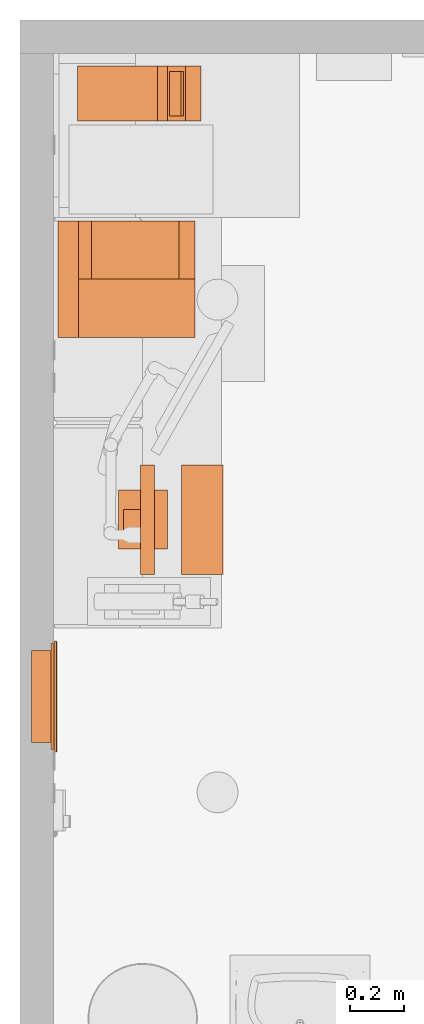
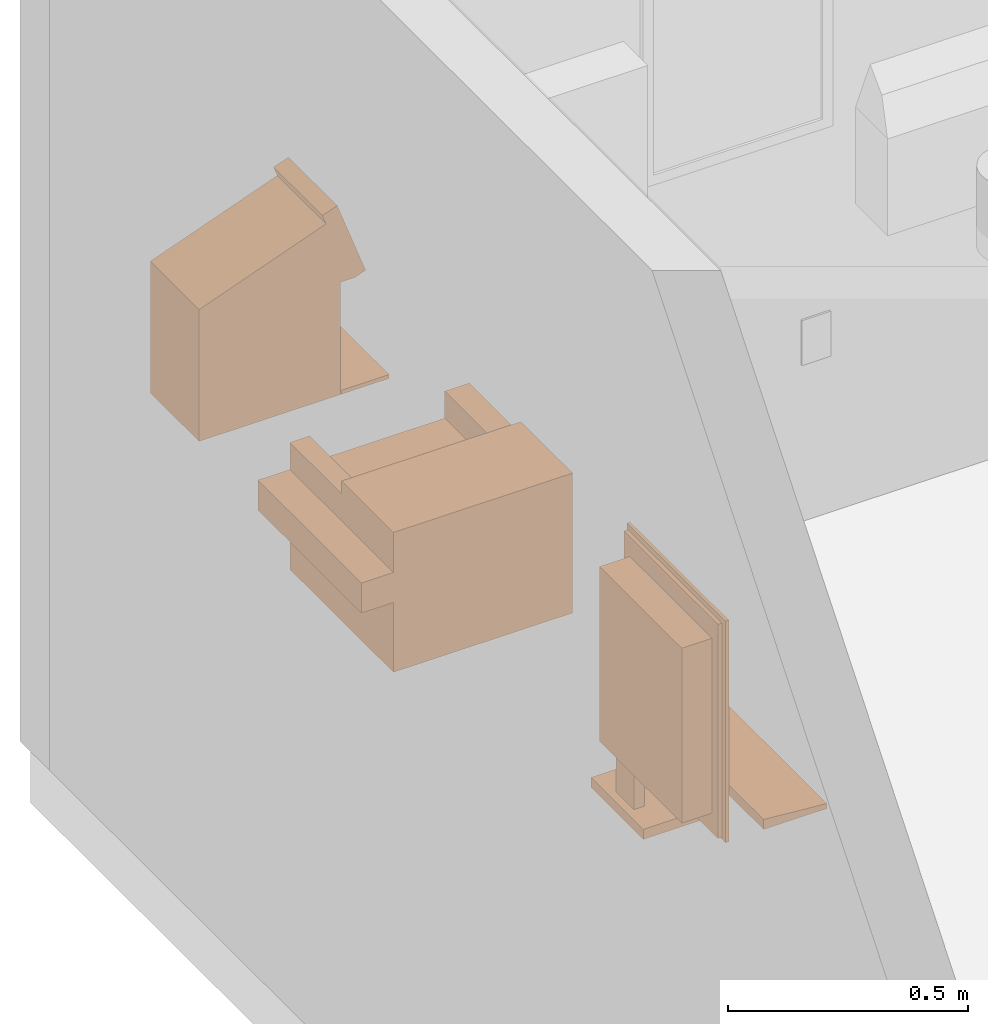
# One storey, part 10 of 11: 4 proxies.
"""IFC2X3 building model written with IfcOpenShell, lengths in feet."""

from ifc_helpers import new_model, entity, si_unit, converted_unit, derived_unit, direction, frame, origin, place, context, subcontext, project, spatial, faceted_brep, source, transform, mapped, type_object, type_shapes, element, save


model = new_model("IFC2X3")

# Units and contexts
model_context = context("Model", 3, precision=0.0001, world=origin(), true_north=direction((6.12303176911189e-17, 1.0)))
body_context = subcontext(model_context, "Body", "Model", "MODEL_VIEW")
ifc_project = project(units=[converted_unit("LENGTHUNIT", "FOOT", entity("IfcRatioMeasure", 0.3048), si_unit("LENGTHUNIT", "METRE"), dimensions=[1, 0, 0, 0, 0, 0, 0]), converted_unit("AREAUNIT", "SQUARE FOOT", entity("IfcRatioMeasure", 0.09290304), si_unit("AREAUNIT", "SQUARE_METRE"), dimensions=[2, 0, 0, 0, 0, 0, 0]), converted_unit("VOLUMEUNIT", "CUBIC FOOT", entity("IfcRatioMeasure", 0.028316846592), si_unit("VOLUMEUNIT", "CUBIC_METRE"), dimensions=[3, 0, 0, 0, 0, 0, 0]), converted_unit("PLANEANGLEUNIT", "DEGREE", entity("IfcRatioMeasure", 0.0174532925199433), si_unit("PLANEANGLEUNIT", "RADIAN"), dimensions=[0, 0, 0, 0, 0, 0, 0]), si_unit("MASSUNIT", "GRAM", prefix="KILO"), derived_unit("MASSDENSITYUNIT", [(si_unit("MASSUNIT", "GRAM", prefix="KILO"), 1), (si_unit("LENGTHUNIT", "METRE"), -3)]), si_unit("TIMEUNIT", "SECOND"), si_unit("FREQUENCYUNIT", "HERTZ"), si_unit("THERMODYNAMICTEMPERATUREUNIT", "DEGREE_CELSIUS"), derived_unit("THERMALTRANSMITTANCEUNIT", [(si_unit("MASSUNIT", "GRAM", prefix="KILO"), 1), (si_unit("THERMODYNAMICTEMPERATUREUNIT", "KELVIN"), -1), (si_unit("TIMEUNIT", "SECOND"), -3)]), derived_unit("VOLUMETRICFLOWRATEUNIT", [(si_unit("LENGTHUNIT", "METRE"), 3), (si_unit("TIMEUNIT", "SECOND"), -1)]), si_unit("ELECTRICCURRENTUNIT", "AMPERE"), si_unit("ELECTRICVOLTAGEUNIT", "VOLT"), si_unit("POWERUNIT", "WATT"), si_unit("FORCEUNIT", "NEWTON"), si_unit("ILLUMINANCEUNIT", "LUX"), si_unit("LUMINOUSFLUXUNIT", "LUMEN"), si_unit("LUMINOUSINTENSITYUNIT", "CANDELA"), derived_unit("USERDEFINED", [(si_unit("MASSUNIT", "GRAM", prefix="KILO"), -1), (si_unit("LENGTHUNIT", "METRE"), -2), (si_unit("TIMEUNIT", "SECOND"), 3), (si_unit("LUMINOUSFLUXUNIT", "LUMEN"), 1)]), derived_unit("LINEARVELOCITYUNIT", [(si_unit("LENGTHUNIT", "METRE"), 1), (si_unit("TIMEUNIT", "SECOND"), -1)]), si_unit("PRESSUREUNIT", "PASCAL"), derived_unit("USERDEFINED", [(si_unit("LENGTHUNIT", "METRE"), -2), (si_unit("MASSUNIT", "GRAM", prefix="KILO"), 1), (si_unit("TIMEUNIT", "SECOND"), -2)])], contexts=[model_context])

# Site, building, storey, space
site_placement = place(None, origin())
site = spatial("IfcSite", under=ifc_project, at=site_placement, Name="Default", CompositionType="ELEMENT")
building_placement = place(site_placement, origin())
building = spatial("IfcBuilding", under=site, at=building_placement, Name="EYE CLINIC:  OPTHALMOLOGY AND OPTOMETRY SERVICES (Ch. 233)", CompositionType="ELEMENT")
storey_placement = place(building_placement, origin())
storey = spatial("IfcBuildingStorey", under=building, at=storey_placement, Name="DATUM", CompositionType="ELEMENT", Elevation=0.0)
space_placement = place(storey_placement, origin())
space = spatial("IfcSpace", under=storey, at=space_placement, Name="(OPVF2)", CompositionType="ELEMENT", InteriorOrExteriorSpace="INTERNAL")

# Proxies
building_element_proxy_type_1 = type_object("IfcBuildingElementProxyType", Name="A5048 - Cabinet, Medication, Security, Wall Mounted", PredefinedType="NOTDEFINED")
shared_shape_1 = source(origin(), body_context, "Body", "Brep", [
    faceted_brep([(-0.664083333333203, -0.914083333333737, 0.0729166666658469), (-0.664083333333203, -0.914083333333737, 0.0663549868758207), (-0.664083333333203, 0.914083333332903, 0.0663549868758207), (-0.664083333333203, 0.914083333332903, 0.0729166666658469), (-0.674499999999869, -0.924500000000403, 0.0663549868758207), (-0.674499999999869, 0.924499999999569, 0.0663549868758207), (0.664083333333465, 0.914083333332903, 0.0663549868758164), (0.664083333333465, 0.914083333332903, 0.0729166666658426), (0.674500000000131, 0.924499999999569, 0.0663549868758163), (0.664083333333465, -0.914083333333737, 0.0663549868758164), (0.664083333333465, -0.914083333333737, 0.0729166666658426), (0.674500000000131, -0.924500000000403, 0.0663549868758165)], [[[0, 1, 2, 3]], [[4, 0, 3, 5]], [[3, 2, 6, 7]], [[5, 3, 7, 8]], [[7, 6, 9, 10]], [[8, 7, 10, 11]], [[10, 9, 1, 0]], [[11, 10, 0, 4]], [[5, 8, 11, 4], [1, 9, 6, 2]]]),
    faceted_brep([(0.664083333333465, 0.914083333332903, 0.0729166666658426), (-0.664083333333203, 0.914083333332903, 0.0729166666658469), (-0.664083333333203, -0.914083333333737, 0.0729166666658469), (0.664083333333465, -0.914083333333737, 0.0729166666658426), (0.664083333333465, 0.914083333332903, 0.0663549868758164), (0.664083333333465, -0.914083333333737, 0.0663549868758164), (-0.664083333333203, -0.914083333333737, 0.0663549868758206), (-0.664083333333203, 0.914083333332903, 0.0663549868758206)], [[[0, 1, 2, 3]], [[4, 5, 6, 7]], [[1, 0, 4, 7]], [[2, 1, 7, 6]], [[3, 2, 6, 5]], [[0, 3, 5, 4]]]),
    faceted_brep([(0.674500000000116, 0.924499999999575, 0.0663549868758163), (-0.674499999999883, 0.924499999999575, 0.0663549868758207), (-0.674499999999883, -0.924500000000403, 0.0663549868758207), (0.674500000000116, -0.924500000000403, 0.0663549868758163), (0.674500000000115, 0.924499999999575, 0.0416666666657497), (0.674500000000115, -0.924500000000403, 0.0416666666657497), (-0.674499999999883, -0.924500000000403, 0.0416666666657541), (-0.674499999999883, 0.924499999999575, 0.0416666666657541)], [[[0, 1, 2, 3]], [[4, 5, 6, 7]], [[1, 0, 4, 7]], [[2, 1, 7, 6]], [[3, 2, 6, 5]], [[0, 3, 5, 4]]]),
    faceted_brep([(0.643250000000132, 0.89324999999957, 0.0312499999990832), (0.538127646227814, 0.666666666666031, 0.0312499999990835), (0.548533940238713, 0.641543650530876, 0.0312499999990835), (0.521573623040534, 0.688240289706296, 0.0312499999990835), (0.552083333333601, 0.614583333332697, 0.0312499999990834), (0.552083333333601, -0.61458333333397, 0.0312499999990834), (0.500000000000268, 0.704794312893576, 0.0312499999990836), (0.474876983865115, 0.715200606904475, 0.0312499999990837), (0.447916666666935, 0.718749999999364, 0.0312499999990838), (-0.447916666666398, 0.718749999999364, 0.0312499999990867), (0.643250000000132, -0.893250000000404, 0.0312499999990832), (-0.643249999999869, 0.89324999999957, 0.0312499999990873), (-0.474876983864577, 0.715200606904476, 0.0312499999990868), (-0.499999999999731, 0.704794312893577, 0.0312499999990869), (-0.521573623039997, 0.688240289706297, 0.0312499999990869), (-0.538127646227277, 0.666666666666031, 0.031249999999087), (-0.548533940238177, 0.641543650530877, 0.031249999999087), (-0.552083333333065, 0.614583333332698, 0.031249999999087), (-0.552083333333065, -0.614583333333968, 0.031249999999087), (-0.643249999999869, -0.893250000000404, 0.0312499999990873), (-0.548533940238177, -0.641543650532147, 0.031249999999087), (-0.538127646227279, -0.666666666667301, 0.031249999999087), (-0.521573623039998, -0.688240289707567, 0.0312499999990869), (-0.499999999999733, -0.704794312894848, 0.0312499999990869), (-0.474876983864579, -0.715200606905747, 0.0312499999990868), (-0.447916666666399, -0.718750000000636, 0.0312499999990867), (0.548533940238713, -0.641543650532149, 0.0312499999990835), (0.538127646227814, -0.666666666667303, 0.0312499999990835), (0.521573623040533, -0.688240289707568, 0.0312499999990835), (0.500000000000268, -0.704794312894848, 0.0312499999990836), (0.474876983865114, -0.715200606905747, 0.0312499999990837), (0.447916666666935, -0.718750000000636, 0.0312499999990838), (-0.562499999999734, -0.729166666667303, -0.239583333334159), (-0.562499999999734, 0.729166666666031, -0.239583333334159), (0.562500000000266, 0.729166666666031, -0.239583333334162), (0.562500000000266, -0.729166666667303, -0.239583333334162), (-0.562499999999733, 0.729166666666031, 0.0), (0.562500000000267, 0.729166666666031, 0.0), (-0.562499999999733, -0.729166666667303, 0.0), (0.562500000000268, -0.729166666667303, 0.0), (-0.643249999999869, 0.89324999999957, 0.0), (-0.643249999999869, -0.893250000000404, 0.0), (0.643250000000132, 0.89324999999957, 0.0), (0.643250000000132, -0.893250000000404, 0.0), (-0.548533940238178, 0.641543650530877, -0.229166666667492), (-0.552083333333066, 0.614583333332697, -0.229166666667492), (-0.552083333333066, -0.614583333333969, -0.229166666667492), (-0.548533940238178, -0.641543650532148, -0.229166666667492), (-0.538127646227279, -0.666666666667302, -0.229166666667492), (-0.521573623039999, -0.688240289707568, -0.229166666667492), (-0.499999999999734, -0.704794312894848, -0.229166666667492), (-0.47487698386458, -0.715200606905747, -0.229166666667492), (-0.4479166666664, -0.718750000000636, -0.229166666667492), (0.447916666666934, -0.718750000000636, -0.229166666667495), (0.474876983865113, -0.715200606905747, -0.229166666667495), (0.500000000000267, -0.704794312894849, -0.229166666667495), (0.521573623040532, -0.688240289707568, -0.229166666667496), (0.538127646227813, -0.666666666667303, -0.229166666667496), (0.548533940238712, -0.641543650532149, -0.229166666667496), (0.552083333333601, -0.61458333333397, -0.229166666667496), (0.552083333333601, 0.614583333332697, -0.229166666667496), (0.548533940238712, 0.641543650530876, -0.229166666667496), (0.538127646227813, 0.66666666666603, -0.229166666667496), (0.521573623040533, 0.688240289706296, -0.229166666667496), (0.500000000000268, 0.704794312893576, -0.229166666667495), (0.474876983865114, 0.715200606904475, -0.229166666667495), (0.447916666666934, 0.718749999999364, -0.229166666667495), (-0.4479166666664, 0.718749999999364, -0.229166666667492), (-0.474876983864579, 0.715200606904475, -0.229166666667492), (-0.499999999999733, 0.704794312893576, -0.229166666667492), (-0.521573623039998, 0.688240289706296, -0.229166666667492), (-0.538127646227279, 0.666666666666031, -0.229166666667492)], [[[0, 1, 2]], [[1, 0, 3]], [[2, 4, 0]], [[0, 4, 5]], [[6, 3, 0]], [[7, 6, 0]], [[8, 7, 0]], [[0, 9, 8]], [[5, 10, 0]], [[9, 0, 11]], [[12, 9, 11]], [[12, 11, 13]], [[14, 13, 11]], [[11, 15, 14]], [[15, 11, 16]], [[17, 16, 11]], [[11, 18, 17]], [[18, 11, 19]], [[20, 18, 19]], [[19, 21, 20]], [[21, 19, 22]], [[23, 22, 19]], [[23, 19, 24]], [[25, 24, 19]], [[25, 19, 10]], [[5, 26, 10]], [[27, 10, 26]], [[10, 27, 28]], [[28, 29, 10]], [[29, 30, 10]], [[30, 31, 10]], [[10, 31, 25]], [[32, 33, 34, 35]], [[36, 37, 34, 33]], [[38, 36, 33, 32]], [[39, 38, 32, 35]], [[37, 39, 35, 34]], [[40, 36, 38]], [[36, 40, 37]], [[38, 41, 40]], [[42, 37, 40]], [[37, 42, 39]], [[43, 39, 42]], [[39, 43, 41]], [[41, 38, 39]], [[11, 0, 42, 40]], [[19, 11, 40, 41]], [[10, 19, 41, 43]], [[0, 10, 43, 42]], [[44, 45, 46, 47, 48, 49, 50, 51, 52, 53, 54, 55, 56, 57, 58, 59, 60, 61, 62, 63, 64, 65, 66, 67, 68, 69, 70, 71]], [[66, 8, 9, 67]], [[69, 68, 12, 13]], [[70, 69, 13, 14]], [[9, 12, 68, 67]], [[44, 71, 15, 16]], [[45, 44, 16, 17]], [[15, 71, 70, 14]], [[45, 17, 18, 46]], [[48, 47, 20, 21]], [[49, 48, 21, 22]], [[18, 20, 47, 46]], [[51, 50, 23, 24]], [[52, 51, 24, 25]], [[23, 50, 49, 22]], [[52, 25, 31, 53]], [[55, 54, 30, 29]], [[56, 55, 29, 28]], [[31, 30, 54, 53]], [[58, 57, 27, 26]], [[59, 58, 26, 5]], [[27, 57, 56, 28]], [[59, 5, 4, 60]], [[62, 61, 2, 1]], [[63, 62, 1, 3]], [[4, 2, 61, 60]], [[65, 64, 6, 7]], [[66, 65, 7, 8]], [[6, 64, 63, 3]]]),
])
type_shapes(building_element_proxy_type_1, [shared_shape_1])
proxy_1_placement = place(space_placement, frame((189.613727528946, 21.1774173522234, 5.33333333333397), z_axis=(1.0, 0.0, 0.0), x_axis=(0.0, 1.0, 0.0)))
element("IfcBuildingElementProxy", 1, at=proxy_1_placement, inside=space, type_object=building_element_proxy_type_1, Name="UXXX3 - Cabinet, Medication, Security, Wall Mounted:A5048 - Cabinet, Medication, Security, Wall Mounted", ObjectType="A5048 - Cabinet, Medication, Security, Wall Mounted", context=body_context, shape_type="MappedRepresentation", body=[
    mapped(shared_shape_1, transform((0.0, 0.0, 0.0), scale=1.0)),
])
building_element_proxy_type_2 = type_object("IfcBuildingElementProxyType", Name="M1825 - Printer, Computer", PredefinedType="NOTDEFINED")
shared_shape_2 = source(origin(), body_context, "Body", "Brep", [
    faceted_brep([(0.708333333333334, 0.833333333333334, 1.16666666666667), (0.0, 0.833333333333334, 1.16666666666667), (0.0, -0.581380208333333, 1.16666666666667), (0.708333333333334, -0.581380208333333, 1.16666666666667), (-0.708333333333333, 0.833333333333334, 0.0), (0.708333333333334, 0.833333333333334, 0.0), (0.708333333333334, -0.581380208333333, 0.0), (-0.708333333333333, -0.581380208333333, 0.0), (-0.708333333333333, 0.833333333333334, 0.395998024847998), (0.0, 0.833333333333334, 0.269898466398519), (0.0, 0.833333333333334, 0.583333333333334), (-0.708333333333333, 0.833333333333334, 0.583333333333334), (-0.708333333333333, 0.833333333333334, 1.05907956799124), (0.0, 0.833333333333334, 1.05907956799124), (-0.708333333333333, 0.641381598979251, 1.05907956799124), (-0.708333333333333, -0.833333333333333, 0.583333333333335), (-0.708333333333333, -0.833333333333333, 0.833333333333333), (-0.708333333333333, -0.581380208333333, 0.833333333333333), (-0.708333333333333, -0.581380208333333, 1.05907956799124), (-0.708333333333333, -0.425130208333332, 1.05907956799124), (-0.708333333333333, -0.425130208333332, 0.833333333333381), (-0.708333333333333, 0.641381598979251, 0.833333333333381), (0.708333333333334, -0.833333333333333, 0.833333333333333), (0.708333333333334, -0.833333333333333, 0.58333333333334), (0.708333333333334, -0.581380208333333, 0.833333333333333), (0.708333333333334, -0.581380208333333, 0.58333333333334), (0.0, -0.425130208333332, 1.05907956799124), (0.0, -0.581380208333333, 1.05907956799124), (0.0, 0.641381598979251, 1.05907956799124), (0.0, 0.641381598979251, 0.833333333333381), (0.0, -0.425130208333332, 0.833333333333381), (0.0, -0.581380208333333, 0.583333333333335), (-0.708333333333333, -0.581380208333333, 0.395998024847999), (0.0, -0.581380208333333, 0.269898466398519)], [[[0, 1, 2, 3]], [[4, 5, 6, 7]], [[5, 4, 8, 9, 10, 11, 12, 13, 1, 0]], [[14, 12, 11, 15, 16, 17, 18, 19, 20, 21]], [[22, 16, 15, 23]], [[5, 0, 3, 24, 22, 23, 25, 6]], [[26, 19, 18, 27]], [[1, 13, 28, 29, 30, 26, 27, 2]], [[30, 20, 19, 26]], [[30, 29, 21, 20]], [[21, 29, 28, 14]], [[24, 17, 16, 22]], [[17, 24, 3, 2, 27, 18]], [[11, 10, 31, 25, 23, 15]], [[9, 8, 32, 33]], [[10, 9, 33, 31]], [[25, 31, 33, 32, 7, 6]], [[13, 12, 14, 28]], [[8, 4, 7, 32]]]),
])
type_shapes(building_element_proxy_type_2, [shared_shape_2])
proxy_2_placement = place(space_placement, frame((190.530394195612, 26.260750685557, 2.66666666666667), z_axis=(0.0, 0.0, 1.0), x_axis=(0.0, -1.0, 0.0)))
element("IfcBuildingElementProxy", 2, at=proxy_2_placement, inside=space, type_object=building_element_proxy_type_2, Name="M1825 - Printer, Computer:M1825 - Printer, Computer", ObjectType="M1825 - Printer, Computer", context=body_context, shape_type="MappedRepresentation", body=[
    mapped(shared_shape_2, transform((0.0, 0.0, 0.0), scale=1.0)),
])
building_element_proxy_type_3 = type_object("IfcBuildingElementProxyType", Name="M1801 Computer", PredefinedType="NOTDEFINED")
shared_shape_3 = source(origin(), body_context, "Body", "Brep", [
    faceted_brep([(0.666666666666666, 0.437223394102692, 1.41666666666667), (-0.666666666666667, 0.437223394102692, 1.41666666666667), (-0.666666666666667, 0.271109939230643, 1.41666666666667), (0.666666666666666, 0.271109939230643, 1.41666666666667), (0.666666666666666, 0.437223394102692, 0.500000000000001), (0.666666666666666, 0.271109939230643, 0.500000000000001), (-0.666666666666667, 0.271109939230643, 0.500000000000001), (-0.666666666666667, 0.437223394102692, 0.500000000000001), (-0.625, 0.271109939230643, 1.375), (0.625, 0.271109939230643, 1.375), (0.625, 0.271109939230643, 0.541666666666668), (-0.625, 0.271109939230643, 0.541666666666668), (0.625, 0.286812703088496, 1.375), (-0.625, 0.286812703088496, 1.375), (0.625, 0.286812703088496, 0.541666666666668), (-0.625, 0.286812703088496, 0.541666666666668)], [[[0, 1, 2, 3]], [[4, 5, 6, 7]], [[1, 0, 4, 7]], [[2, 1, 7, 6]], [[3, 2, 6, 5], [8, 9, 10, 11]], [[0, 3, 5, 4]], [[12, 9, 8, 13]], [[14, 15, 11, 10]], [[12, 13, 15, 14]], [[13, 8, 11, 15]], [[9, 12, 14, 10]]]),
    faceted_brep([(0.358011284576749, 0.111770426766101, 0.0833333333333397), (0.358011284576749, 0.111770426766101, 0.0), (0.358011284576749, 0.708333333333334, 0.0), (0.358011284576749, 0.708333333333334, 0.0833333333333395), (-0.358011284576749, 0.708333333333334, 0.0833333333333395), (-0.358011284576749, 0.708333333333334, 0.0), (-0.358011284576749, 0.111770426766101, 0.0), (-0.358011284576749, 0.111770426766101, 0.0833333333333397), (0.12128795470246, 0.645556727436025, 0.104166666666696), (0.12128795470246, 0.645556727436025, 0.0833333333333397), (-0.12128795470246, 0.645556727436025, 0.0833333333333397), (-0.12128795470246, 0.645556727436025, 0.104166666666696), (0.12128795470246, 0.645556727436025, 0.958333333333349), (-0.12128795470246, 0.645556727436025, 0.958333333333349), (0.12128795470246, 0.437223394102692, 0.958333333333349), (-0.12128795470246, 0.437223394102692, 0.958333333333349), (0.12128795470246, 0.437223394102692, 0.791666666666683), (-0.12128795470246, 0.437223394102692, 0.791666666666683), (0.12128795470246, 0.562223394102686, 0.791666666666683), (-0.12128795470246, 0.562223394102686, 0.791666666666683), (0.12128795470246, 0.562223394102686, 0.0833333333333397), (-0.12128795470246, 0.562223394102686, 0.0833333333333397)], [[[0, 1, 2, 3]], [[4, 5, 6, 7]], [[8, 9, 10, 11]], [[12, 8, 11, 13]], [[14, 12, 13, 15]], [[16, 14, 15, 17]], [[18, 16, 17, 19]], [[20, 18, 19, 21]], [[0, 3, 4, 7], [9, 20, 21, 10]], [[1, 0, 7, 6]], [[2, 1, 6, 5]], [[3, 2, 5, 4]], [[20, 9, 8, 12, 14, 16, 18]], [[10, 21, 19, 17, 15, 13, 11]]]),
    faceted_brep([(0.666666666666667, -0.5625, 0.0), (0.666666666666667, -0.0624999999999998, 0.0), (0.666666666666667, -0.0624999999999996, 0.0833333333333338), (0.666666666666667, -0.5625, 0.0416666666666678), (-0.666666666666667, -0.5625, 0.0), (-0.666666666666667, -0.5625, 0.0416666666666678), (-0.666666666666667, -0.0624999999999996, 0.0833333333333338), (-0.666666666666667, -0.0624999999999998, 0.0)], [[[0, 1, 2, 3]], [[4, 5, 6, 7]], [[1, 0, 4, 7]], [[2, 1, 7, 6]], [[3, 2, 6, 5]], [[0, 3, 5, 4]]]),
])
type_shapes(building_element_proxy_type_3, [shared_shape_3])
proxy_3_placement = place(space_placement, frame((191.14094256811, 23.3323361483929, 2.66666666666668), z_axis=(0.0, 0.0, 1.0), x_axis=(0.0, 1.0, 0.0)))
element("IfcBuildingElementProxy", 3, at=proxy_3_placement, inside=space, type_object=building_element_proxy_type_3, Name="M1801 - Computer, Microprocessing, With Flat Panel Monitor:M1801 Computer", ObjectType="M1801 Computer", context=body_context, shape_type="MappedRepresentation", body=[
    mapped(shared_shape_3, transform((0.0, 0.0, 0.0), scale=1.0)),
])
building_element_proxy_type_4 = type_object("IfcBuildingElementProxyType", Name="M5525 - Lensometer, Soft Contact", PredefinedType="NOTDEFINED")
shared_shape_4 = source(origin(), body_context, "Body", "Brep", [
    faceted_brep([(0.666666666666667, 1.49999999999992, 0.0329552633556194), (0.0, 1.49999999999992, 0.0329552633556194), (0.0, 1.12130634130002, 0.0329552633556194), (0.666666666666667, 1.12130634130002, 0.0329552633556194), (0.666666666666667, 1.49999999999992, 0.0), (0.666666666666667, 1.12130634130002, 0.0), (0.0, 1.12130634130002, 0.0), (0.0, 1.49999999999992, 0.0)], [[[0, 1, 2, 3]], [[4, 5, 6, 7]], [[3, 5, 4, 0]], [[2, 6, 5, 3]], [[1, 7, 6, 2]], [[0, 4, 7, 1]]]),
    faceted_brep([(0.604166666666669, 1.06882734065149, 1.48824402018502), (0.0668703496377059, 1.06882734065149, 1.48824402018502), (0.0668703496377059, 1.23759788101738, 1.02455077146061), (0.604166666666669, 1.23759788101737, 1.02455077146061), (0.604166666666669, 1.08713539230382, 1.49490760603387), (0.604166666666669, 1.2559059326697, 1.03121435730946), (0.0668703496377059, 1.2559059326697, 1.03121435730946), (0.0668703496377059, 1.08713539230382, 1.49490760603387)], [[[0, 1, 2, 3]], [[4, 5, 6, 7]], [[3, 5, 4, 0]], [[2, 6, 5, 3]], [[1, 7, 6, 2]], [[0, 4, 7, 1]]]),
    faceted_brep([(0.666666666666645, 0.0, 1.09922268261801), (0.666666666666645, 0.0, 0.0), (0.666666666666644, 1.11696857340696, 0.0), (0.666666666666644, 1.11696857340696, 0.936630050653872), (0.666666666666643, 1.22966797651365, 0.936630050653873), (0.666666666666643, 1.3154658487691, 0.967857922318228), (0.666666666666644, 1.09063336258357, 1.58558010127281), (0.666666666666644, 0.973171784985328, 1.5428275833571), (0.666666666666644, 1.00190417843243, 1.46388598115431), (0.0, 0.0, 1.09922268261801), (0.0, 1.00190417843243, 1.46388598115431), (0.0, 0.973171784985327, 1.5428275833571), (0.0, 1.09063336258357, 1.58558010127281), (0.0, 1.3154658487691, 0.967857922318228), (0.0, 1.22966797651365, 0.936630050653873), (0.0, 1.11696857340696, 0.936630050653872), (0.0, 1.11696857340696, 0.0), (0.0, 0.0, 0.0), (0.604166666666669, 1.11936575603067, 1.50663849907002), (0.0668703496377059, 1.11936575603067, 1.50663849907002), (0.0668703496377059, 1.28813629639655, 1.04294525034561), (0.604166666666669, 1.28813629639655, 1.04294525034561), (0.604166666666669, 1.06882734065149, 1.48824402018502), (0.604166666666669, 1.23759788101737, 1.02455077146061), (0.0668703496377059, 1.23759788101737, 1.02455077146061), (0.0668703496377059, 1.06882734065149, 1.48824402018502)], [[[0, 1, 2, 3, 4, 5, 6, 7, 8]], [[9, 10, 11, 12, 13, 14, 15, 16, 17]], [[8, 10, 9, 0]], [[7, 11, 10, 8]], [[6, 12, 11, 7]], [[5, 13, 12, 6], [18, 19, 20, 21]], [[4, 14, 13, 5]], [[3, 15, 14, 4]], [[2, 16, 15, 3]], [[1, 17, 16, 2]], [[0, 9, 17, 1]], [[22, 23, 24, 25]], [[22, 18, 21, 23]], [[23, 21, 20, 24]], [[24, 20, 19, 25]], [[25, 19, 18, 22]]]),
    faceted_brep([(0.382563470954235, 1.24385495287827, 0.936630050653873), (0.356467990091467, 1.25033652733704, 0.936630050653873), (0.32957961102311, 1.25033652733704, 0.936630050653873), (0.303484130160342, 1.24385495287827, 0.936630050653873), (0.27972058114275, 1.23127406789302, 0.936630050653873), (0.259690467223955, 1.21333585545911, 0.936630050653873), (0.243196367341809, 1.11979316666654, 0.936630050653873), (0.442851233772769, 1.11979316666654, 0.936630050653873), (0.426357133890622, 1.21333585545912, 0.936630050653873), (0.406327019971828, 1.23127406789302, 0.936630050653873), (0.442851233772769, 1.11979316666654, 0.82727393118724), (0.243196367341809, 1.11979316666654, 0.82727393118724), (0.259690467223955, 1.21333585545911, 0.82727393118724), (0.27972058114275, 1.23127406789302, 0.82727393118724), (0.303484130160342, 1.24385495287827, 0.82727393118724), (0.32957961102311, 1.25033652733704, 0.82727393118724), (0.356467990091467, 1.25033652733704, 0.82727393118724), (0.382563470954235, 1.24385495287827, 0.82727393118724), (0.406327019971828, 1.23127406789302, 0.82727393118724), (0.426357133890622, 1.21333585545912, 0.82727393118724)], [[[0, 1, 2, 3, 4, 5, 6, 7, 8, 9]], [[10, 11, 12, 13, 14, 15, 16, 17, 18, 19]], [[13, 12, 5, 4]], [[3, 14, 13, 4]], [[14, 3, 2, 15]], [[2, 1, 16, 15]], [[1, 0, 17, 16]], [[0, 9, 18, 17]], [[19, 18, 9, 8]], [[10, 19, 8, 7]], [[11, 10, 7, 6]], [[11, 6, 5, 12]]]),
    faceted_brep([(0.442859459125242, 1.12130634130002, 0.609881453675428), (0.426365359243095, 1.2148490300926, 0.609881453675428), (0.406335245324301, 1.2327872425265, 0.609881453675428), (0.382571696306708, 1.24536812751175, 0.609881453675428), (0.35647621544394, 1.25184970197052, 0.609881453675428), (0.329587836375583, 1.25184970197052, 0.609881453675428), (0.303492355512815, 1.24536812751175, 0.609881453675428), (0.279728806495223, 1.2327872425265, 0.609881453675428), (0.259698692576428, 1.2148490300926, 0.609881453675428), (0.243204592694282, 1.12130634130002, 0.609881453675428), (0.442859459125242, 1.12130634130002, 0.467740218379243), (0.243204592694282, 1.12130634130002, 0.467740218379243), (0.259698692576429, 1.2148490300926, 0.467740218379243), (0.279728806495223, 1.2327872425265, 0.467740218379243), (0.303492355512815, 1.24536812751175, 0.467740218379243), (0.329587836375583, 1.25184970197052, 0.467740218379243), (0.35647621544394, 1.25184970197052, 0.467740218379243), (0.382571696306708, 1.24536812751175, 0.467740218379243), (0.406335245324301, 1.2327872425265, 0.467740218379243), (0.426365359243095, 1.2148490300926, 0.467740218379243)], [[[0, 1, 2, 3, 4, 5, 6, 7, 8, 9]], [[10, 11, 12, 13, 14, 15, 16, 17, 18, 19]], [[13, 12, 8, 7]], [[14, 13, 7, 6]], [[15, 14, 6, 5]], [[5, 4, 16, 15]], [[17, 16, 4, 3]], [[18, 17, 3, 2]], [[19, 18, 2, 1]], [[19, 1, 0, 10]], [[10, 0, 9, 11]], [[11, 9, 8, 12]]]),
])
type_shapes(building_element_proxy_type_4, [shared_shape_4])
proxy_4_placement = place(space_placement, frame((189.936644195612, 28.854500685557, 2.99921907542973), z_axis=(0.0, 0.0, 1.0), x_axis=(0.0, -1.0, 0.0)))
element("IfcBuildingElementProxy", 4, at=proxy_4_placement, inside=space, type_object=building_element_proxy_type_4, Name="M5525 - Lensometer, Soft Contact:M5525 - Lensometer, Soft Contact", ObjectType="M5525 - Lensometer, Soft Contact", context=body_context, shape_type="MappedRepresentation", body=[
    mapped(shared_shape_4, transform((0.0, 0.0, 0.0), scale=1.0)),
])

save(model, "model.ifc")
